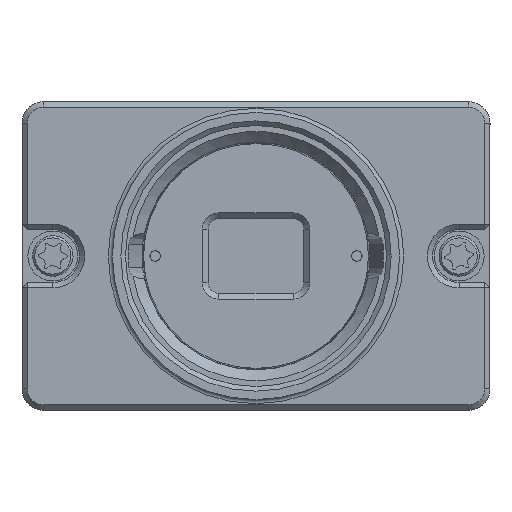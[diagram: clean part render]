
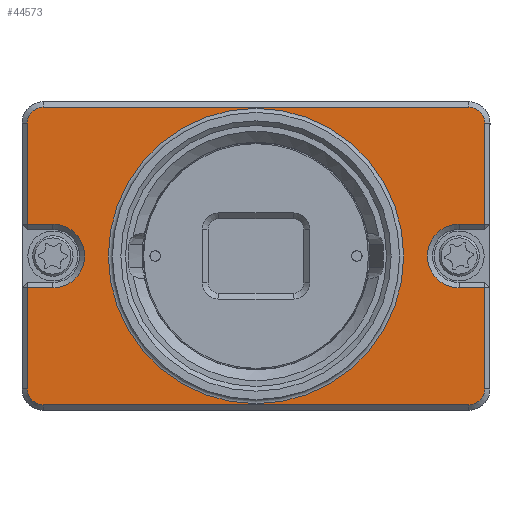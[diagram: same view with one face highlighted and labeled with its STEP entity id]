
A CAD part, front view. The second image highlights one B-rep face of the part: STEP entity #44573.
In plain terms, the highlighted planar face has unit normal (0, -1, 0).
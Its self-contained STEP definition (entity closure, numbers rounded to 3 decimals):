
#470=FACE_BOUND('',#6010,.T.);
#3548=FACE_OUTER_BOUND('',#6009,.T.);
#6009=EDGE_LOOP('',(#35601,#35602,#35603,#35604,#35605,#35606,#35607,#35608,
#35609,#35610,#35611,#35612,#35613,#35614,#35615,#35616));
#6010=EDGE_LOOP('',(#35617,#35618));
#7667=CIRCLE('',#47667,1.5);
#7668=CIRCLE('',#47670,1.5);
#7669=CIRCLE('',#47675,3.);
#7670=CIRCLE('',#47680,1.5);
#7671=CIRCLE('',#47683,1.5);
#7672=CIRCLE('',#47689,3.);
#7678=CIRCLE('',#47703,13.88);
#7679=CIRCLE('',#47704,13.88);
#10631=LINE('',#73467,#15085);
#10635=LINE('',#73476,#15089);
#10638=LINE('',#73484,#15092);
#10642=LINE('',#73491,#15096);
#10644=LINE('',#73498,#15098);
#10648=LINE('',#73506,#15102);
#10652=LINE('',#73515,#15106);
#10655=LINE('',#73522,#15109);
#10659=LINE('',#73530,#15113);
#10661=LINE('',#73536,#15115);
#15085=VECTOR('',#55946,10.);
#15089=VECTOR('',#55956,10.);
#15092=VECTOR('',#55965,10.);
#15096=VECTOR('',#55973,10.);
#15098=VECTOR('',#55981,10.);
#15102=VECTOR('',#55989,10.);
#15106=VECTOR('',#55999,10.);
#15109=VECTOR('',#56008,10.);
#15113=VECTOR('',#56018,10.);
#15115=VECTOR('',#56026,10.);
#19445=VERTEX_POINT('',#73464);
#19446=VERTEX_POINT('',#73466);
#19447=VERTEX_POINT('',#73470);
#19448=VERTEX_POINT('',#73474);
#19449=VERTEX_POINT('',#73478);
#19450=VERTEX_POINT('',#73482);
#19451=VERTEX_POINT('',#73488);
#19452=VERTEX_POINT('',#73493);
#19453=VERTEX_POINT('',#73497);
#19454=VERTEX_POINT('',#73503);
#19455=VERTEX_POINT('',#73505);
#19456=VERTEX_POINT('',#73509);
#19457=VERTEX_POINT('',#73513);
#19458=VERTEX_POINT('',#73517);
#19459=VERTEX_POINT('',#73527);
#19460=VERTEX_POINT('',#73532);
#19466=VERTEX_POINT('',#73558);
#19467=VERTEX_POINT('',#73559);
#25039=EDGE_CURVE('',#19445,#19446,#10631,.T.);
#25042=EDGE_CURVE('',#19447,#19445,#7667,.T.);
#25044=EDGE_CURVE('',#19448,#19447,#10635,.T.);
#25046=EDGE_CURVE('',#19449,#19448,#7668,.T.);
#25048=EDGE_CURVE('',#19450,#19449,#10638,.T.);
#25052=EDGE_CURVE('',#19446,#19451,#10642,.T.);
#25053=EDGE_CURVE('',#19451,#19452,#7669,.T.);
#25055=EDGE_CURVE('',#19452,#19453,#10644,.T.);
#25059=EDGE_CURVE('',#19454,#19455,#10648,.T.);
#25062=EDGE_CURVE('',#19456,#19454,#7670,.T.);
#25064=EDGE_CURVE('',#19457,#19456,#10652,.T.);
#25066=EDGE_CURVE('',#19458,#19457,#7671,.T.);
#25068=EDGE_CURVE('',#19453,#19458,#10655,.T.);
#25072=EDGE_CURVE('',#19455,#19459,#10659,.T.);
#25073=EDGE_CURVE('',#19459,#19460,#7672,.T.);
#25075=EDGE_CURVE('',#19460,#19450,#10661,.T.);
#25085=EDGE_CURVE('',#19466,#19467,#7678,.T.);
#25086=EDGE_CURVE('',#19467,#19466,#7679,.T.);
#35601=ORIENTED_EDGE('',*,*,#25068,.F.);
#35602=ORIENTED_EDGE('',*,*,#25055,.F.);
#35603=ORIENTED_EDGE('',*,*,#25053,.F.);
#35604=ORIENTED_EDGE('',*,*,#25052,.F.);
#35605=ORIENTED_EDGE('',*,*,#25039,.F.);
#35606=ORIENTED_EDGE('',*,*,#25042,.F.);
#35607=ORIENTED_EDGE('',*,*,#25044,.F.);
#35608=ORIENTED_EDGE('',*,*,#25046,.F.);
#35609=ORIENTED_EDGE('',*,*,#25048,.F.);
#35610=ORIENTED_EDGE('',*,*,#25075,.F.);
#35611=ORIENTED_EDGE('',*,*,#25073,.F.);
#35612=ORIENTED_EDGE('',*,*,#25072,.F.);
#35613=ORIENTED_EDGE('',*,*,#25059,.F.);
#35614=ORIENTED_EDGE('',*,*,#25062,.F.);
#35615=ORIENTED_EDGE('',*,*,#25064,.F.);
#35616=ORIENTED_EDGE('',*,*,#25066,.F.);
#35617=ORIENTED_EDGE('',*,*,#25085,.F.);
#35618=ORIENTED_EDGE('',*,*,#25086,.F.);
#40465=PLANE('',#47702);
#44573=ADVANCED_FACE('',(#3548,#470),#40465,.T.);
#47667=AXIS2_PLACEMENT_3D('',#73472,#55951,#55952);
#47670=AXIS2_PLACEMENT_3D('',#73480,#55960,#55961);
#47675=AXIS2_PLACEMENT_3D('',#73494,#55976,#55977);
#47680=AXIS2_PLACEMENT_3D('',#73511,#55994,#55995);
#47683=AXIS2_PLACEMENT_3D('',#73519,#56003,#56004);
#47689=AXIS2_PLACEMENT_3D('',#73533,#56021,#56022);
#47702=AXIS2_PLACEMENT_3D('',#73557,#56053,#56054);
#47703=AXIS2_PLACEMENT_3D('',#73560,#56055,#56056);
#47704=AXIS2_PLACEMENT_3D('',#73561,#56057,#56058);
#55946=DIRECTION('',(0.,0.,1.));
#55951=DIRECTION('center_axis',(0.,1.,0.));
#55952=DIRECTION('ref_axis',(-0.707,0.,-0.707));
#55956=DIRECTION('',(-1.,0.,0.));
#55960=DIRECTION('center_axis',(0.,1.,0.));
#55961=DIRECTION('ref_axis',(0.707,0.,-0.707));
#55965=DIRECTION('',(0.,0.,-1.));
#55973=DIRECTION('',(1.,0.,0.));
#55976=DIRECTION('center_axis',(0.,-1.,0.));
#55977=DIRECTION('ref_axis',(1.,0.,0.));
#55981=DIRECTION('',(-1.,0.,0.));
#55989=DIRECTION('',(0.,0.,-1.));
#55994=DIRECTION('center_axis',(0.,1.,0.));
#55995=DIRECTION('ref_axis',(0.707,0.,0.707));
#55999=DIRECTION('',(1.,0.,0.));
#56003=DIRECTION('center_axis',(0.,1.,0.));
#56004=DIRECTION('ref_axis',(-0.707,0.,0.707));
#56008=DIRECTION('',(0.,0.,1.));
#56018=DIRECTION('',(-1.,0.,0.));
#56021=DIRECTION('center_axis',(0.,-1.,0.));
#56022=DIRECTION('ref_axis',(-1.,0.,0.));
#56026=DIRECTION('',(1.,0.,0.));
#56053=DIRECTION('center_axis',(0.,-1.,0.));
#56054=DIRECTION('ref_axis',(-1.,0.,0.));
#56055=DIRECTION('center_axis',(0.,-1.,0.));
#56056=DIRECTION('ref_axis',(1.,0.,0.));
#56057=DIRECTION('center_axis',(0.,-1.,0.));
#56058=DIRECTION('ref_axis',(1.,0.,0.));
#73464=CARTESIAN_POINT('',(-21.5,-9.416,-12.5));
#73466=CARTESIAN_POINT('',(-21.5,-9.416,-3.));
#73467=CARTESIAN_POINT('',(-21.5,-9.416,-7.25));
#73470=CARTESIAN_POINT('',(-20.,-9.416,-14.));
#73472=CARTESIAN_POINT('Origin',(-20.,-9.416,-12.5));
#73474=CARTESIAN_POINT('',(20.,-9.416,-14.));
#73476=CARTESIAN_POINT('',(20.55,-9.416,-14.));
#73478=CARTESIAN_POINT('',(21.5,-9.416,-12.5));
#73480=CARTESIAN_POINT('Origin',(20.,-9.416,-12.5));
#73482=CARTESIAN_POINT('',(21.5,-9.416,-3.));
#73484=CARTESIAN_POINT('',(21.5,-9.416,7.25));
#73488=CARTESIAN_POINT('',(-19.1,-9.416,-3.));
#73491=CARTESIAN_POINT('',(0.,-9.416,-3.));
#73493=CARTESIAN_POINT('',(-19.1,-9.416,3.));
#73494=CARTESIAN_POINT('Origin',(-19.1,-9.416,0.));
#73497=CARTESIAN_POINT('',(-21.5,-9.416,3.));
#73498=CARTESIAN_POINT('',(-1.45,-9.416,3.));
#73503=CARTESIAN_POINT('',(21.5,-9.416,12.5));
#73505=CARTESIAN_POINT('',(21.5,-9.416,3.));
#73506=CARTESIAN_POINT('',(21.5,-9.416,7.25));
#73509=CARTESIAN_POINT('',(20.,-9.416,14.));
#73511=CARTESIAN_POINT('Origin',(20.,-9.416,12.5));
#73513=CARTESIAN_POINT('',(-20.,-9.416,14.));
#73515=CARTESIAN_POINT('',(-1.45,-9.416,14.));
#73517=CARTESIAN_POINT('',(-21.5,-9.416,12.5));
#73519=CARTESIAN_POINT('Origin',(-20.,-9.416,12.5));
#73522=CARTESIAN_POINT('',(-21.5,-9.416,-7.25));
#73527=CARTESIAN_POINT('',(19.1,-9.416,3.));
#73530=CARTESIAN_POINT('',(19.1,-9.416,3.));
#73532=CARTESIAN_POINT('',(19.1,-9.416,-3.));
#73533=CARTESIAN_POINT('Origin',(19.1,-9.416,0.));
#73536=CARTESIAN_POINT('',(20.55,-9.416,-3.));
#73557=CARTESIAN_POINT('Origin',(19.1,-9.416,0.));
#73558=CARTESIAN_POINT('',(-13.88,-9.416,0.));
#73559=CARTESIAN_POINT('',(0.,-9.416,13.88));
#73560=CARTESIAN_POINT('Origin',(0.,-9.416,
0.));
#73561=CARTESIAN_POINT('Origin',(0.,-9.416,
0.));
